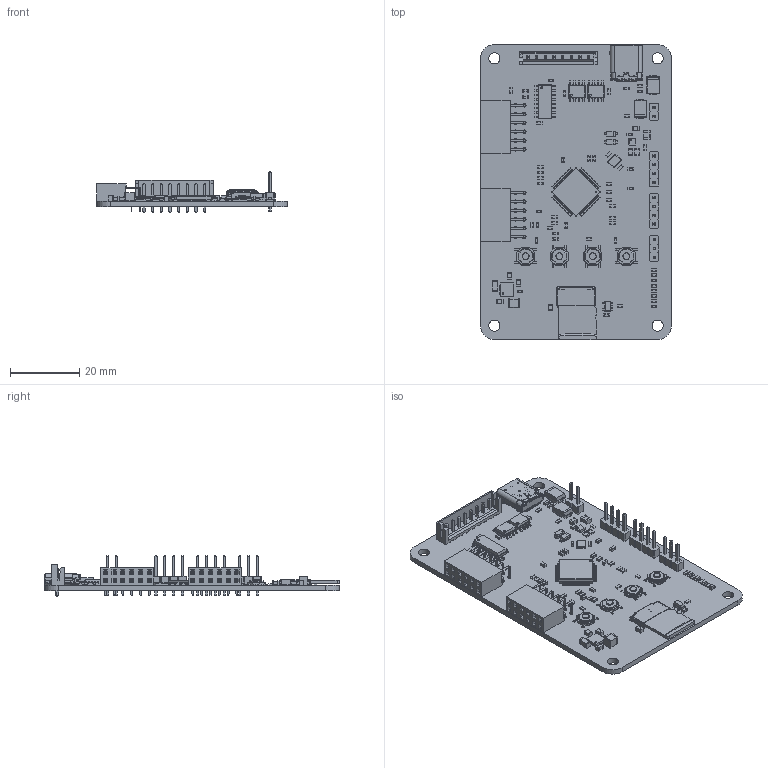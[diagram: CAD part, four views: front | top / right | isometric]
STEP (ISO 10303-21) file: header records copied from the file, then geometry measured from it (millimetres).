
FILE_DESCRIPTION(('KiCad electronic assembly'),'2;1');
FILE_NAME('TMCL-Master-Python v2.0.step','2021-05-24T11:26:56',( 'An Author'),('A Company'),'Open CASCADE STEP processor 6.9', 'KiCad to STEP converter','Unknown');
FILE_SCHEMA(('AUTOMOTIVE_DESIGN { 1 0 10303 214 1 1 1 1 }'));
Length unit declared in the file: millimetre
Products named in the file (57): Open CASCADE STEP translator 6.9 1; VDFN-8-1EP_2x2mm_P0.5mm_EP0.9x1.7mm; SOLID; C_0805_2012Metric; D_SOD-123; R_0805_2012Metric; R_0603_1608Metric; L_1008_2520Metric; C_0603_1608Metric; TQFN-24-1EP_4x4mm_P0.5mm_EP2.8x2.8mm_PullBack; C_1210_3225Metric; C_1206_3216Metric; PinSocket_2x06_P2.54mm_Horizontal; SOIC-8_3.9x4.9mm_P1.27mm; JST_EH_B8B-EH-A_1x08_P2.50mm_Vertical; PinHeader_1x03_P2.54mm_Vertical; M-12401610E4#2A-REVT2; COMPOUND; SW_SPST_TL3342; SOT-23-5; D_SMB; PinHeader_1x02_P2.54mm_Vertical; L_0603_1608Metric; LED_0603_1608Metric; Crystal-SMD-3215-Pin2; Crystal_SMD_3225-4Pin_3.2x2.5mm; SOIC-16_3.9x9.9mm_P1.27mm; LQFP-64_10x10mm_P0.5mm; molex_1050270001; micro_SD; PinHeader_1x04_P2.54mm_Vertical
Assembly tree (118 placements, depth 3):
  Open CASCADE STEP translator 6.9 1
    VDFN-8-1EP_2x2mm_P0.5mm_EP0.9x1.7mm
      SOLID
    C_0805_2012Metric  x5
      SOLID
    D_SOD-123  x2
      SOLID
    R_0805_2012Metric  x2
      SOLID
    R_0603_1608Metric  x23
      SOLID
    L_1008_2520Metric
      SOLID
    C_0603_1608Metric  x25
      SOLID
    TQFN-24-1EP_4x4mm_P0.5mm_EP2.8x2.8mm_PullBack
      SOLID
    C_1210_3225Metric
      SOLID
    C_1206_3216Metric
      SOLID
    PinSocket_2x06_P2.54mm_Horizontal  x2
      SOLID
    SOIC-8_3.9x4.9mm_P1.27mm  x2
      SOLID
    JST_EH_B8B-EH-A_1x08_P2.50mm_Vertical
      SOLID
    PinHeader_1x03_P2.54mm_Vertical
      SOLID
    M-12401610E4#2A-REVT2
      COMPOUND
    SW_SPST_TL3342  x4
      SOLID
    SOT-23-5
      SOLID
    D_SMB  x2
      SOLID
    PinHeader_1x02_P2.54mm_Vertical
      SOLID
    L_0603_1608Metric
      SOLID
    LED_0603_1608Metric  x4
      SOLID
    Crystal-SMD-3215-Pin2
    Crystal_SMD_3225-4Pin_3.2x2.5mm
      SOLID
    SOIC-16_3.9x9.9mm_P1.27mm
      SOLID
    LQFP-64_10x10mm_P0.5mm
      SOLID
    molex_1050270001
      SOLID
    micro_SD
      COMPOUND
    PinHeader_1x04_P2.54mm_Vertical  x2
      SOLID
    COMPOUND
Bounding box: 55 x 85.02 x 11.74 mm (x, y, z)
Volume: 9928.8 mm3; surface area: 16802.5 mm2
Topology: 142 solids, 146 shells, 10639 faces, 28708 edges, 18456 vertices
Faces by surface type: plane 7847, cylinder 2161, bspline 386, cone 160, torus 77, sphere 8
Full cylindrical faces by diameter (mm): 0.4 x5, 0.5 x1, 0.6 x3, 0.65 x1, 0.8 x2, 0.95 x8, 1 x37, 2 x4, 3.2 x4
Entity records: 577684 total; most frequent: CARTESIAN_POINT 127123, DIRECTION 78659, LINE 54823, VECTOR 54823, ORIENTED_EDGE 42306, PCURVE 42306, DEFINITIONAL_REPRESENTATION 42306, EDGE_CURVE 21153
